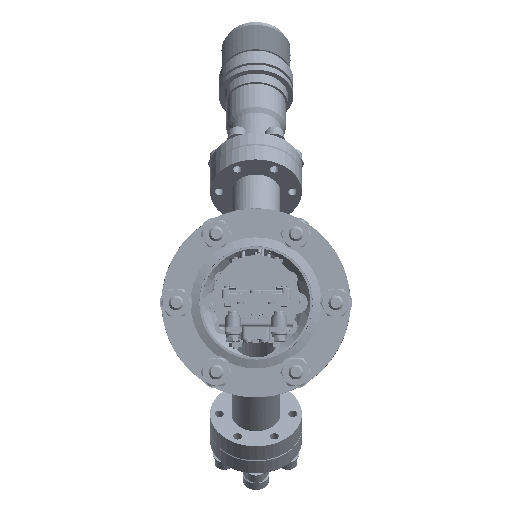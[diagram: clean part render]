
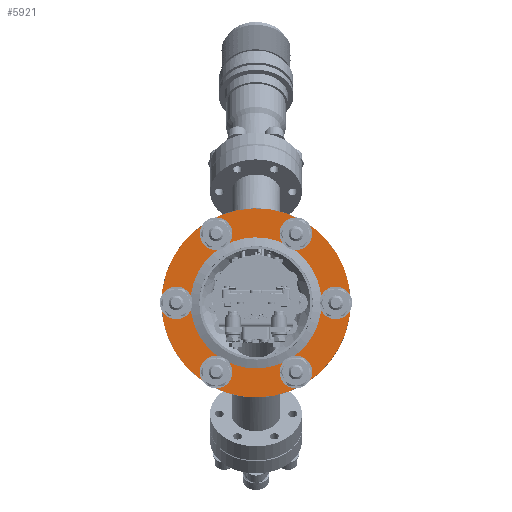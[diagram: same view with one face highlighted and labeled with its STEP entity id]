
A CAD part, left-side view. The second image highlights one B-rep face of the part: STEP entity #5921.
In plain terms, the highlighted planar face has unit normal (-1, 0, 0).
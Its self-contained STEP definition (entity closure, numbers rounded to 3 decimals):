
#5021=AXIS2_PLACEMENT_3D('Circle Axis2P3D',#5019,#5020,$) ;
#5396=AXIS2_PLACEMENT_3D('Circle Axis2P3D',#5394,#5395,$) ;
#5789=AXIS2_PLACEMENT_3D('Plane Axis2P3D',#5786,#5787,#5788) ;
#5797=AXIS2_PLACEMENT_3D('Circle Axis2P3D',#5795,#5796,$) ;
#5806=AXIS2_PLACEMENT_3D('Circle Axis2P3D',#5804,#5805,$) ;
#5815=AXIS2_PLACEMENT_3D('Circle Axis2P3D',#5813,#5814,$) ;
#5824=AXIS2_PLACEMENT_3D('Circle Axis2P3D',#5822,#5823,$) ;
#5833=AXIS2_PLACEMENT_3D('Circle Axis2P3D',#5831,#5832,$) ;
#5842=AXIS2_PLACEMENT_3D('Circle Axis2P3D',#5840,#5841,$) ;
#5851=AXIS2_PLACEMENT_3D('Circle Axis2P3D',#5849,#5850,$) ;
#5860=AXIS2_PLACEMENT_3D('Circle Axis2P3D',#5858,#5859,$) ;
#5869=AXIS2_PLACEMENT_3D('Circle Axis2P3D',#5867,#5868,$) ;
#5878=AXIS2_PLACEMENT_3D('Circle Axis2P3D',#5876,#5877,$) ;
#5887=AXIS2_PLACEMENT_3D('Circle Axis2P3D',#5885,#5886,$) ;
#5896=AXIS2_PLACEMENT_3D('Circle Axis2P3D',#5894,#5895,$) ;
#5905=AXIS2_PLACEMENT_3D('Circle Axis2P3D',#5903,#5904,$) ;
#5914=AXIS2_PLACEMENT_3D('Circle Axis2P3D',#5912,#5913,$) ;
#5016=CARTESIAN_POINT('Vertex',(0.,30.496,16.66)) ;
#5019=CARTESIAN_POINT('Axis2P3D Location',(0.,0.,0.)) ;
#5023=CARTESIAN_POINT('Vertex',(0.,-30.496,-16.66)) ;
#5394=CARTESIAN_POINT('Axis2P3D Location',(0.,0.,0.)) ;
#5786=CARTESIAN_POINT('Axis2P3D Location',(0.,24.1,0.)) ;
#5795=CARTESIAN_POINT('Axis2P3D Location',(0.,-29.35,0.)) ;
#5799=CARTESIAN_POINT('Vertex',(0.,-32.202,-1.558)) ;
#5801=CARTESIAN_POINT('Vertex',(0.,-26.498,1.558)) ;
#5804=CARTESIAN_POINT('Axis2P3D Location',(0.,-29.35,0.)) ;
#5813=CARTESIAN_POINT('Axis2P3D Location',(0.,0.,0.)) ;
#5817=CARTESIAN_POINT('Vertex',(0.,-21.15,-11.554)) ;
#5819=CARTESIAN_POINT('Vertex',(0.,21.15,11.554)) ;
#5822=CARTESIAN_POINT('Axis2P3D Location',(0.,0.,0.)) ;
#5831=CARTESIAN_POINT('Axis2P3D Location',(0.,-14.675,-25.418)) ;
#5835=CARTESIAN_POINT('Vertex',(0.,-11.823,-23.86)) ;
#5837=CARTESIAN_POINT('Vertex',(0.,-17.527,-26.976)) ;
#5840=CARTESIAN_POINT('Axis2P3D Location',(0.,-14.675,-25.418)) ;
#5849=CARTESIAN_POINT('Axis2P3D Location',(0.,14.675,-25.418)) ;
#5853=CARTESIAN_POINT('Vertex',(0.,17.527,-23.86)) ;
#5855=CARTESIAN_POINT('Vertex',(0.,11.823,-26.976)) ;
#5858=CARTESIAN_POINT('Axis2P3D Location',(0.,14.675,-25.418)) ;
#5867=CARTESIAN_POINT('Axis2P3D Location',(0.,29.35,0.)) ;
#5871=CARTESIAN_POINT('Vertex',(0.,32.202,1.558)) ;
#5873=CARTESIAN_POINT('Vertex',(0.,26.498,-1.558)) ;
#5876=CARTESIAN_POINT('Axis2P3D Location',(0.,29.35,0.)) ;
#5885=CARTESIAN_POINT('Axis2P3D Location',(0.,14.675,25.418)) ;
#5889=CARTESIAN_POINT('Vertex',(0.,17.527,26.976)) ;
#5891=CARTESIAN_POINT('Vertex',(0.,11.823,23.86)) ;
#5894=CARTESIAN_POINT('Axis2P3D Location',(0.,14.675,25.418)) ;
#5903=CARTESIAN_POINT('Axis2P3D Location',(0.,-14.675,25.418)) ;
#5907=CARTESIAN_POINT('Vertex',(0.,-11.823,26.976)) ;
#5909=CARTESIAN_POINT('Vertex',(0.,-17.527,23.86)) ;
#5912=CARTESIAN_POINT('Axis2P3D Location',(0.,-14.675,25.418)) ;
#5020=DIRECTION('Axis2P3D Direction',(1.,0.,0.)) ;
#5395=DIRECTION('Axis2P3D Direction',(1.,0.,0.)) ;
#5787=DIRECTION('Axis2P3D Direction',(1.,0.,0.)) ;
#5788=DIRECTION('Axis2P3D XDirection',(0.,1.,0.)) ;
#5796=DIRECTION('Axis2P3D Direction',(1.,0.,0.)) ;
#5805=DIRECTION('Axis2P3D Direction',(1.,0.,0.)) ;
#5814=DIRECTION('Axis2P3D Direction',(1.,0.,0.)) ;
#5823=DIRECTION('Axis2P3D Direction',(1.,0.,0.)) ;
#5832=DIRECTION('Axis2P3D Direction',(1.,0.,0.)) ;
#5841=DIRECTION('Axis2P3D Direction',(1.,0.,0.)) ;
#5850=DIRECTION('Axis2P3D Direction',(1.,0.,0.)) ;
#5859=DIRECTION('Axis2P3D Direction',(1.,0.,0.)) ;
#5868=DIRECTION('Axis2P3D Direction',(1.,0.,0.)) ;
#5877=DIRECTION('Axis2P3D Direction',(1.,0.,0.)) ;
#5886=DIRECTION('Axis2P3D Direction',(1.,0.,0.)) ;
#5895=DIRECTION('Axis2P3D Direction',(1.,0.,0.)) ;
#5904=DIRECTION('Axis2P3D Direction',(1.,0.,0.)) ;
#5913=DIRECTION('Axis2P3D Direction',(1.,0.,0.)) ;
#5792=ORIENTED_EDGE('',*,*,#5025,.F.) ;
#5793=ORIENTED_EDGE('',*,*,#5398,.F.) ;
#5810=ORIENTED_EDGE('',*,*,#5803,.T.) ;
#5811=ORIENTED_EDGE('',*,*,#5808,.T.) ;
#5828=ORIENTED_EDGE('',*,*,#5821,.T.) ;
#5829=ORIENTED_EDGE('',*,*,#5826,.T.) ;
#5846=ORIENTED_EDGE('',*,*,#5839,.T.) ;
#5847=ORIENTED_EDGE('',*,*,#5844,.T.) ;
#5864=ORIENTED_EDGE('',*,*,#5857,.T.) ;
#5865=ORIENTED_EDGE('',*,*,#5862,.T.) ;
#5882=ORIENTED_EDGE('',*,*,#5875,.T.) ;
#5883=ORIENTED_EDGE('',*,*,#5880,.T.) ;
#5900=ORIENTED_EDGE('',*,*,#5893,.T.) ;
#5901=ORIENTED_EDGE('',*,*,#5898,.T.) ;
#5918=ORIENTED_EDGE('',*,*,#5911,.T.) ;
#5919=ORIENTED_EDGE('',*,*,#5916,.T.) ;
#5812=FACE_BOUND('',#5809,.T.) ;
#5830=FACE_BOUND('',#5827,.T.) ;
#5848=FACE_BOUND('',#5845,.T.) ;
#5866=FACE_BOUND('',#5863,.T.) ;
#5884=FACE_BOUND('',#5881,.T.) ;
#5902=FACE_BOUND('',#5899,.T.) ;
#5920=FACE_BOUND('',#5917,.T.) ;
#5921=ADVANCED_FACE('Hauptk\X2\00F6\X0\rper',(#5794,#5812,#5830,#5848,#5866,#5884,#5902,#5920),#5790,.F.) ;
#5022=CIRCLE('generated circle',#5021,34.75) ;
#5397=CIRCLE('generated circle',#5396,34.75) ;
#5798=CIRCLE('generated circle',#5797,3.25) ;
#5807=CIRCLE('generated circle',#5806,3.25) ;
#5816=CIRCLE('generated circle',#5815,24.1) ;
#5825=CIRCLE('generated circle',#5824,24.1) ;
#5834=CIRCLE('generated circle',#5833,3.25) ;
#5843=CIRCLE('generated circle',#5842,3.25) ;
#5852=CIRCLE('generated circle',#5851,3.25) ;
#5861=CIRCLE('generated circle',#5860,3.25) ;
#5870=CIRCLE('generated circle',#5869,3.25) ;
#5879=CIRCLE('generated circle',#5878,3.25) ;
#5888=CIRCLE('generated circle',#5887,3.25) ;
#5897=CIRCLE('generated circle',#5896,3.25) ;
#5906=CIRCLE('generated circle',#5905,3.25) ;
#5915=CIRCLE('generated circle',#5914,3.25) ;
#5025=EDGE_CURVE('',#5017,#5024,#5022,.T.) ;
#5398=EDGE_CURVE('',#5024,#5017,#5397,.T.) ;
#5803=EDGE_CURVE('',#5800,#5802,#5798,.T.) ;
#5808=EDGE_CURVE('',#5802,#5800,#5807,.T.) ;
#5821=EDGE_CURVE('',#5818,#5820,#5816,.T.) ;
#5826=EDGE_CURVE('',#5820,#5818,#5825,.T.) ;
#5839=EDGE_CURVE('',#5836,#5838,#5834,.T.) ;
#5844=EDGE_CURVE('',#5838,#5836,#5843,.T.) ;
#5857=EDGE_CURVE('',#5854,#5856,#5852,.T.) ;
#5862=EDGE_CURVE('',#5856,#5854,#5861,.T.) ;
#5875=EDGE_CURVE('',#5872,#5874,#5870,.T.) ;
#5880=EDGE_CURVE('',#5874,#5872,#5879,.T.) ;
#5893=EDGE_CURVE('',#5890,#5892,#5888,.T.) ;
#5898=EDGE_CURVE('',#5892,#5890,#5897,.T.) ;
#5911=EDGE_CURVE('',#5908,#5910,#5906,.T.) ;
#5916=EDGE_CURVE('',#5910,#5908,#5915,.T.) ;
#5791=EDGE_LOOP('',(#5792,#5793)) ;
#5809=EDGE_LOOP('',(#5810,#5811)) ;
#5827=EDGE_LOOP('',(#5828,#5829)) ;
#5845=EDGE_LOOP('',(#5846,#5847)) ;
#5863=EDGE_LOOP('',(#5864,#5865)) ;
#5881=EDGE_LOOP('',(#5882,#5883)) ;
#5899=EDGE_LOOP('',(#5900,#5901)) ;
#5917=EDGE_LOOP('',(#5918,#5919)) ;
#5794=FACE_OUTER_BOUND('',#5791,.T.) ;
#5790=PLANE('',#5789) ;
#5017=VERTEX_POINT('',#5016) ;
#5024=VERTEX_POINT('',#5023) ;
#5800=VERTEX_POINT('',#5799) ;
#5802=VERTEX_POINT('',#5801) ;
#5818=VERTEX_POINT('',#5817) ;
#5820=VERTEX_POINT('',#5819) ;
#5836=VERTEX_POINT('',#5835) ;
#5838=VERTEX_POINT('',#5837) ;
#5854=VERTEX_POINT('',#5853) ;
#5856=VERTEX_POINT('',#5855) ;
#5872=VERTEX_POINT('',#5871) ;
#5874=VERTEX_POINT('',#5873) ;
#5890=VERTEX_POINT('',#5889) ;
#5892=VERTEX_POINT('',#5891) ;
#5908=VERTEX_POINT('',#5907) ;
#5910=VERTEX_POINT('',#5909) ;
